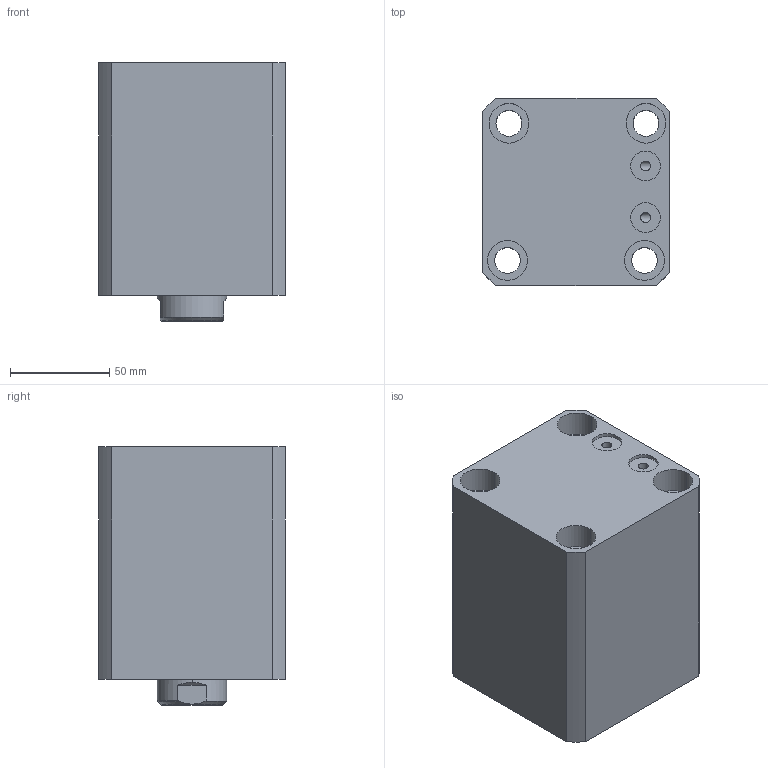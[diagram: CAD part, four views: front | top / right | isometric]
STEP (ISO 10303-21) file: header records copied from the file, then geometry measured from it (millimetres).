
FILE_DESCRIPTION (( 'STEP AP214' ), '1' );
FILE_NAME ('chtb-sdmb63x50n_asm.STEP', '2018-05-16T06:50:26', ( 'Windows' ), ( 'Microsoft' ), 'SwSTEP 2.0', 'SolidWorks 2015', '' );
FILE_SCHEMA (( 'AUTOMOTIVE_DESIGN' ));
Length unit declared in the file: millimetre
Products named in the file (4): chtb-sdmb63x50n_asm; CHTB-SDMB63X50NBT; CHTB63X50NHSG; CHTB-63QG
Assembly tree (3 placements, depth 2):
  chtb-sdmb63x50n_asm
    CHTB-63QG
    CHTB63X50NHSG
    CHTB-SDMB63X50NBT
Bounding box: 94 x 94 x 130 mm (x, y, z)
Volume: 835818.4 mm3; surface area: 145109.8 mm2
Topology: 3 solids, 3 shells, 164 faces, 468 edges, 318 vertices
Faces by surface type: cylinder 107, plane 30, bspline 12, cone 8, torus 7
Entity records: 17708 total; most frequent: CARTESIAN_POINT 13594, ORIENTED_EDGE 924, DIRECTION 707, EDGE_CURVE 462, VERTEX_POINT 318, AXIS2_PLACEMENT_3D 284, EDGE_LOOP 196, ADVANCED_FACE 164
